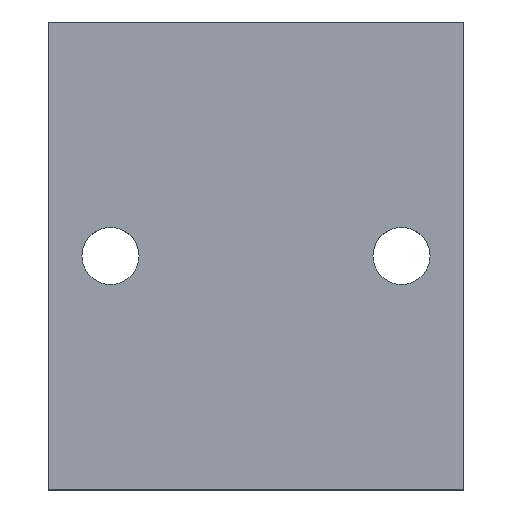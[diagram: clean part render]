
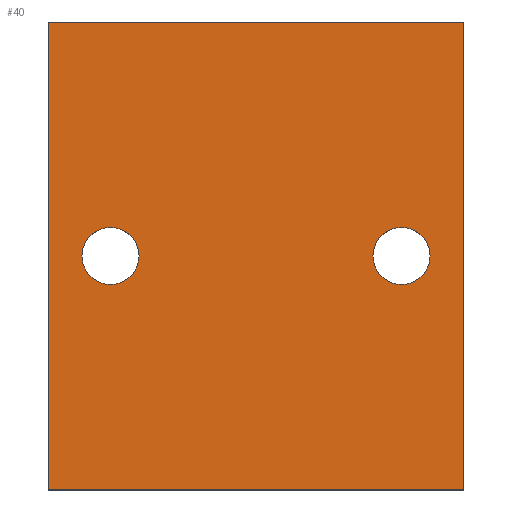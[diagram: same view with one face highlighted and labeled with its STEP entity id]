
A CAD part, top view. The second image highlights one B-rep face of the part: STEP entity #40.
In plain terms, the highlighted planar face has unit normal (0, 0, 1).
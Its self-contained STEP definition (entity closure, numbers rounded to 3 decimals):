
#40=ADVANCED_FACE('',(#78,#79,#80),#48,.T.);
#48=PLANE('',#169);
#54=LINE('',#222,#66);
#55=LINE('',#225,#67);
#56=LINE('',#227,#68);
#57=LINE('',#229,#69);
#66=VECTOR('',#185,1.);
#67=VECTOR('',#186,1.);
#68=VECTOR('',#187,1.);
#69=VECTOR('',#188,1.);
#78=FACE_BOUND('',#88,.T.);
#79=FACE_BOUND('',#89,.T.);
#80=FACE_BOUND('',#90,.T.);
#88=EDGE_LOOP('',(#102));
#89=EDGE_LOOP('',(#103));
#90=EDGE_LOOP('',(#104,#105,#106,#107));
#102=ORIENTED_EDGE('',*,*,#146,.T.);
#103=ORIENTED_EDGE('',*,*,#147,.T.);
#104=ORIENTED_EDGE('',*,*,#148,.F.);
#105=ORIENTED_EDGE('',*,*,#149,.F.);
#106=ORIENTED_EDGE('',*,*,#150,.F.);
#107=ORIENTED_EDGE('',*,*,#151,.F.);
#134=VERTEX_POINT('',#219);
#135=VERTEX_POINT('',#221);
#136=VERTEX_POINT('',#223);
#137=VERTEX_POINT('',#224);
#138=VERTEX_POINT('',#226);
#139=VERTEX_POINT('',#228);
#146=EDGE_CURVE('',#134,#134,#162,.T.);
#147=EDGE_CURVE('',#135,#135,#163,.T.);
#148=EDGE_CURVE('',#136,#137,#54,.T.);
#149=EDGE_CURVE('',#138,#136,#55,.T.);
#150=EDGE_CURVE('',#139,#138,#56,.T.);
#151=EDGE_CURVE('',#137,#139,#57,.T.);
#162=CIRCLE('',#167,2.75);
#163=CIRCLE('',#168,2.75);
#167=AXIS2_PLACEMENT_3D('',#218,#181,#182);
#168=AXIS2_PLACEMENT_3D('',#220,#183,#184);
#169=AXIS2_PLACEMENT_3D('',#230,#189,#190);
#181=DIRECTION('',(0.,0.,-1.));
#182=DIRECTION('',(-1.,0.,0.));
#183=DIRECTION('',(0.,0.,-1.));
#184=DIRECTION('',(-1.,0.,0.));
#185=DIRECTION('',(-1.,0.,0.));
#186=DIRECTION('',(0.,-1.,0.));
#187=DIRECTION('',(1.,0.,0.));
#188=DIRECTION('',(0.,1.,0.));
#189=DIRECTION('',(0.,0.,1.));
#190=DIRECTION('',(1.,0.,0.));
#218=CARTESIAN_POINT('',(34.,22.5,15.));
#219=CARTESIAN_POINT('',(31.25,22.5,15.));
#220=CARTESIAN_POINT('',(6.,22.5,15.));
#221=CARTESIAN_POINT('',(3.25,22.5,15.));
#222=CARTESIAN_POINT('',(20.,0.,15.));
#223=CARTESIAN_POINT('',(40.,0.,15.));
#224=CARTESIAN_POINT('',(0.,0.,15.));
#225=CARTESIAN_POINT('',(40.,22.5,15.));
#226=CARTESIAN_POINT('',(40.,45.,15.));
#227=CARTESIAN_POINT('',(20.,45.,15.));
#228=CARTESIAN_POINT('',(0.,45.,15.));
#229=CARTESIAN_POINT('',(0.,22.5,15.));
#230=CARTESIAN_POINT('',(20.,22.5,15.));
